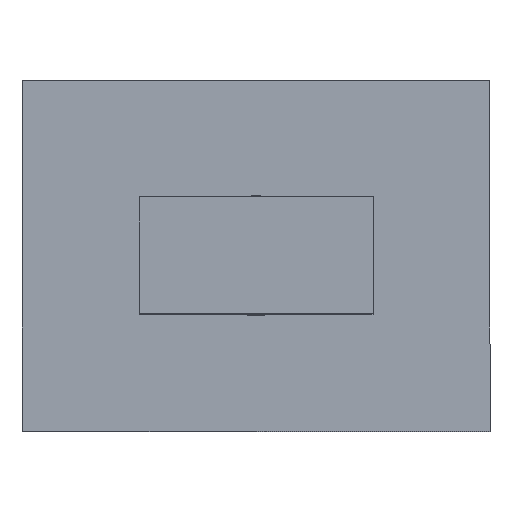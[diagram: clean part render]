
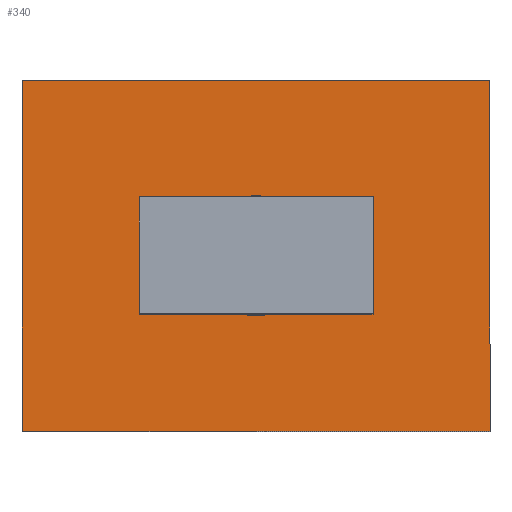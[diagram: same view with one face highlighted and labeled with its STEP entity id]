
A CAD part, top view. The second image highlights one B-rep face of the part: STEP entity #340.
In plain terms, the highlighted planar face has unit normal (0, 0, 1).
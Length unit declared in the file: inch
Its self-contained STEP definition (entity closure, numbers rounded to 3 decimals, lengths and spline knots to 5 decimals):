
#7 = CARTESIAN_POINT ( 'NONE',  ( -0.25, 0.125, 0.5 ) ) ;
#15 = DIRECTION ( 'NONE',  ( 1., 0., 0. ) ) ;
#16 = CARTESIAN_POINT ( 'NONE',  ( -0.25, -0.125, 0.5 ) ) ;
#27 = ORIENTED_EDGE ( 'NONE', *, *, #348, .T. ) ;
#34 = VERTEX_POINT ( 'NONE', #437 ) ;
#38 = LINE ( 'NONE', #258, #412 ) ;
#48 = ORIENTED_EDGE ( 'NONE', *, *, #448, .F. ) ;
#63 = PLANE ( 'NONE',  #88 ) ;
#65 = CARTESIAN_POINT ( 'NONE',  ( 0., 0., 0.5 ) ) ;
#69 = EDGE_LOOP ( 'NONE', ( #581, #27, #282, #416 ) ) ;
#75 = LINE ( 'NONE', #443, #511 ) ;
#88 = AXIS2_PLACEMENT_3D ( 'NONE', #432, #436, #441 ) ;
#94 = CARTESIAN_POINT ( 'NONE',  ( 0.5, 0.375, 0.5 ) ) ;
#96 = VERTEX_POINT ( 'NONE', #447 ) ;
#102 = VERTEX_POINT ( 'NONE', #130 ) ;
#110 = ORIENTED_EDGE ( 'NONE', *, *, #469, .F. ) ;
#117 = DIRECTION ( 'NONE',  ( 1., 0., 0. ) ) ;
#118 = CARTESIAN_POINT ( 'NONE',  ( -0.25, -0.125, 0.5 ) ) ;
#130 = CARTESIAN_POINT ( 'NONE',  ( 0.02979, 0.125, 0.5 ) ) ;
#132 = DIRECTION ( 'NONE',  ( 0., -1., 0. ) ) ;
#153 = CARTESIAN_POINT ( 'NONE',  ( 0.25, 0.125, 0.5 ) ) ;
#159 = AXIS2_PLACEMENT_3D ( 'NONE', #65, #550, #529 ) ;
#169 = ORIENTED_EDGE ( 'NONE', *, *, #267, .F. ) ;
#174 = VECTOR ( 'NONE', #717, 39.37008 ) ;
#194 = CARTESIAN_POINT ( 'NONE',  ( -0.02979, -0.125, 0.5 ) ) ;
#207 = DIRECTION ( 'NONE',  ( 1., 0., 0. ) ) ;
#210 = CARTESIAN_POINT ( 'NONE',  ( -0.5, -0.375, 0.5 ) ) ;
#214 = EDGE_CURVE ( 'NONE', #491, #96, #38, .T. ) ;
#219 = VERTEX_POINT ( 'NONE', #345 ) ;
#223 = DIRECTION ( 'NONE',  ( 0., 1., 0. ) ) ;
#230 = EDGE_CURVE ( 'NONE', #718, #442, #385, .T. ) ;
#231 = EDGE_LOOP ( 'NONE', ( #110, #169, #48, #571, #473, #692, #423, #349 ) ) ;
#241 = CIRCLE ( 'NONE', #159, 0.1285 ) ;
#246 = CARTESIAN_POINT ( 'NONE',  ( 0.5, -0.375, 0.5 ) ) ;
#258 = CARTESIAN_POINT ( 'NONE',  ( -0.25, 0.125, 0.5 ) ) ;
#263 = EDGE_CURVE ( 'NONE', #407, #219, #400, .T. ) ;
#267 = EDGE_CURVE ( 'NONE', #652, #102, #615, .T. ) ;
#277 = LINE ( 'NONE', #94, #551 ) ;
#279 = EDGE_CURVE ( 'NONE', #642, #34, #277, .T. ) ;
#282 = ORIENTED_EDGE ( 'NONE', *, *, #230, .T. ) ;
#302 = LINE ( 'NONE', #118, #406 ) ;
#327 = FACE_BOUND ( 'NONE', #231, .T. ) ;
#340 = ADVANCED_FACE ( 'NONE', ( #327, #535 ), #63, .T. ) ;
#345 = CARTESIAN_POINT ( 'NONE',  ( 0.25, -0.125, 0.5 ) ) ;
#346 = CARTESIAN_POINT ( 'NONE',  ( -0.02979, 0.125, 0.5 ) ) ;
#348 = EDGE_CURVE ( 'NONE', #34, #718, #75, .T. ) ;
#349 = ORIENTED_EDGE ( 'NONE', *, *, #214, .F. ) ;
#350 = VERTEX_POINT ( 'NONE', #449 ) ;
#378 = CARTESIAN_POINT ( 'NONE',  ( -0.5, 0.375, 0.5 ) ) ;
#385 = LINE ( 'NONE', #624, #594 ) ;
#400 = LINE ( 'NONE', #515, #689 ) ;
#401 = DIRECTION ( 'NONE',  ( 0., -1., 0. ) ) ;
#402 = EDGE_CURVE ( 'NONE', #647, #407, #680, .T. ) ;
#406 = VECTOR ( 'NONE', #117, 39.37008 ) ;
#407 = VERTEX_POINT ( 'NONE', #554 ) ;
#412 = VECTOR ( 'NONE', #651, 39.37008 ) ;
#416 = ORIENTED_EDGE ( 'NONE', *, *, #499, .T. ) ;
#423 = ORIENTED_EDGE ( 'NONE', *, *, #488, .F. ) ;
#424 = DIRECTION ( 'NONE',  ( -1., 0., 0. ) ) ;
#426 = AXIS2_PLACEMENT_3D ( 'NONE', #557, #635, #559 ) ;
#432 = CARTESIAN_POINT ( 'NONE',  ( 0., 0., 0.5 ) ) ;
#436 = DIRECTION ( 'NONE',  ( 0., 0., 1. ) ) ;
#437 = CARTESIAN_POINT ( 'NONE',  ( 0.5, 0.375, 0.5 ) ) ;
#441 = DIRECTION ( 'NONE',  ( 1., 0., 0. ) ) ;
#442 = VERTEX_POINT ( 'NONE', #608 ) ;
#443 = CARTESIAN_POINT ( 'NONE',  ( -0.5, 0.375, 0.5 ) ) ;
#447 = CARTESIAN_POINT ( 'NONE',  ( -0.25, 0.125, 0.5 ) ) ;
#448 = EDGE_CURVE ( 'NONE', #219, #652, #656, .T. ) ;
#449 = CARTESIAN_POINT ( 'NONE',  ( -0.25, -0.125, 0.5 ) ) ;
#458 = DIRECTION ( 'NONE',  ( -1., 0., 0. ) ) ;
#469 = EDGE_CURVE ( 'NONE', #102, #491, #241, .T. ) ;
#470 = LINE ( 'NONE', #16, #494 ) ;
#473 = ORIENTED_EDGE ( 'NONE', *, *, #402, .F. ) ;
#483 = LINE ( 'NONE', #210, #493 ) ;
#488 = EDGE_CURVE ( 'NONE', #96, #350, #470, .T. ) ;
#491 = VERTEX_POINT ( 'NONE', #346 ) ;
#493 = VECTOR ( 'NONE', #207, 39.37008 ) ;
#494 = VECTOR ( 'NONE', #401, 39.37008 ) ;
#499 = EDGE_CURVE ( 'NONE', #442, #642, #483, .T. ) ;
#503 = VECTOR ( 'NONE', #458, 39.37008 ) ;
#511 = VECTOR ( 'NONE', #424, 39.37008 ) ;
#515 = CARTESIAN_POINT ( 'NONE',  ( -0.25, -0.125, 0.5 ) ) ;
#529 = DIRECTION ( 'NONE',  ( 1., 0., 0. ) ) ;
#535 = FACE_OUTER_BOUND ( 'NONE', #69, .T. ) ;
#550 = DIRECTION ( 'NONE',  ( 0., 0., 1. ) ) ;
#551 = VECTOR ( 'NONE', #223, 39.37008 ) ;
#554 = CARTESIAN_POINT ( 'NONE',  ( 0.02979, -0.125, 0.5 ) ) ;
#557 = CARTESIAN_POINT ( 'NONE',  ( 0., 0., 0.5 ) ) ;
#559 = DIRECTION ( 'NONE',  ( 1., 0., 0. ) ) ;
#571 = ORIENTED_EDGE ( 'NONE', *, *, #263, .F. ) ;
#581 = ORIENTED_EDGE ( 'NONE', *, *, #279, .T. ) ;
#594 = VECTOR ( 'NONE', #132, 39.37008 ) ;
#608 = CARTESIAN_POINT ( 'NONE',  ( -0.5, -0.375, 0.5 ) ) ;
#615 = LINE ( 'NONE', #7, #503 ) ;
#624 = CARTESIAN_POINT ( 'NONE',  ( -0.5, 0.375, 0.5 ) ) ;
#635 = DIRECTION ( 'NONE',  ( 0., 0., 1. ) ) ;
#642 = VERTEX_POINT ( 'NONE', #246 ) ;
#647 = VERTEX_POINT ( 'NONE', #194 ) ;
#651 = DIRECTION ( 'NONE',  ( -1., 0., 0. ) ) ;
#652 = VERTEX_POINT ( 'NONE', #153 ) ;
#656 = LINE ( 'NONE', #684, #174 ) ;
#663 = EDGE_CURVE ( 'NONE', #350, #647, #302, .T. ) ;
#680 = CIRCLE ( 'NONE', #426, 0.1285 ) ;
#684 = CARTESIAN_POINT ( 'NONE',  ( 0.25, -0.125, 0.5 ) ) ;
#689 = VECTOR ( 'NONE', #15, 39.37008 ) ;
#692 = ORIENTED_EDGE ( 'NONE', *, *, #663, .F. ) ;
#717 = DIRECTION ( 'NONE',  ( 0., 1., 0. ) ) ;
#718 = VERTEX_POINT ( 'NONE', #378 ) ;
